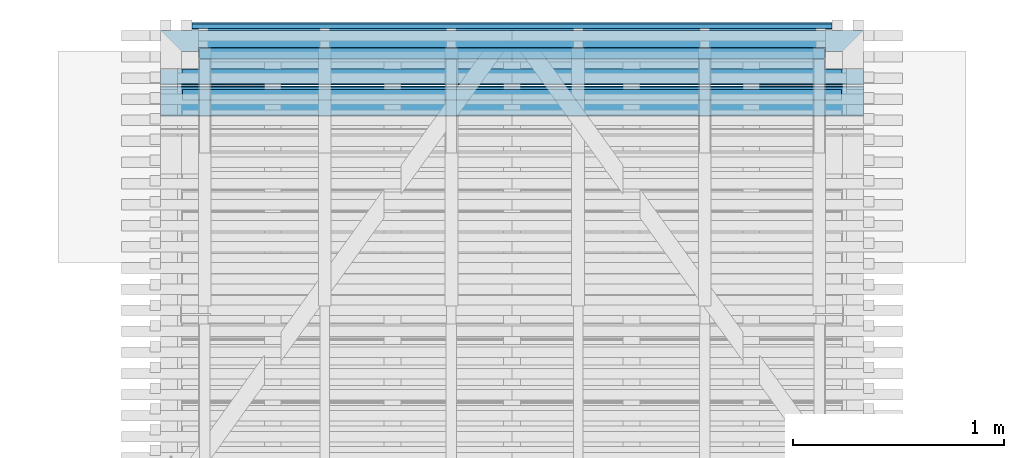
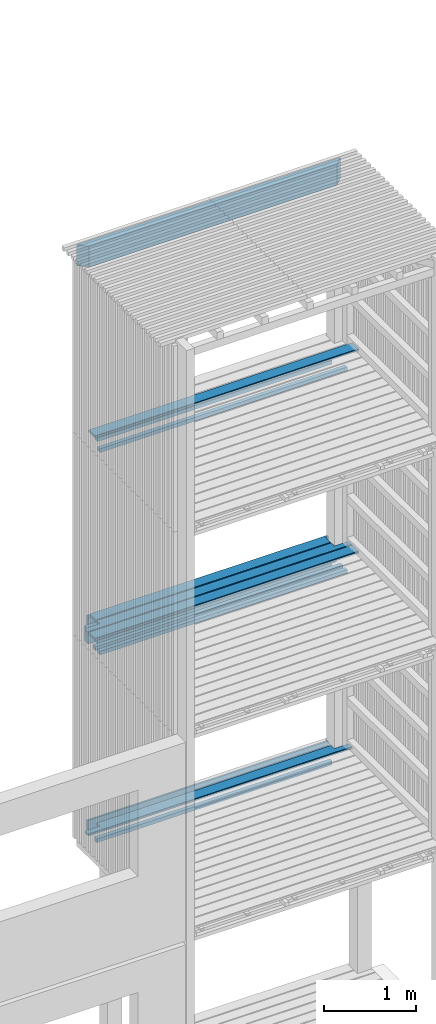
# One storey, part 27 of 182: 16 beams.
"""IFC2X3 building model written with IfcOpenShell, lengths in metres."""

import ifcopenshell
import ifcopenshell.guid

model = None  # the IFC model being written
_history = None  # IfcOwnerHistory: only IFC2X3 demands one
_inside = {}  # id of a spatial element -> (the spatial element, [elements in it])
_under = {}  # id of a project, library or spatial element -> (it, [spatial elements below it])
_declared = {}  # id of a project -> (the project, [libraries it declares])
_typed = {}  # id of a type object -> (the type object, [elements of that type])
_made_of = {}  # id of a material, layer set ... -> (it, [elements and type objects made of it])


def new_model(schema):
    """Start an empty IFC model of exactly this schema.

    Asked for "IFC4X3", IfcOpenShell would pick the latest addendum, in which some entities
    have other attributes; the version numbers below select the first issue.
    IFC2X3 requires an IfcOwnerHistory on every rooted entity: one is made here for all.
    """
    global model, _history
    if schema == "IFC4X3":
        model = ifcopenshell.file(schema_version=(4, 3, 0, 0))
    else:
        model = ifcopenshell.file(schema=schema)
    _inside.clear()
    _under.clear()
    _declared.clear()
    _typed.clear()
    _made_of.clear()
    _history = None
    if model.schema == "IFC2X3":
        org = make("IfcOrganization", Name="unknown")
        user = make(
            "IfcPersonAndOrganization",
            ThePerson=make("IfcPerson", FamilyName="unknown"),
            TheOrganization=org,
        )
        app = make(
            "IfcApplication",
            ApplicationDeveloper=org,
            Version="unknown",
            ApplicationFullName="unknown",
            ApplicationIdentifier="unknown",
        )
        _history = make(
            "IfcOwnerHistory",
            OwningUser=user,
            OwningApplication=app,
            ChangeAction="ADDED",
            CreationDate=0,
        )
    return model


def make(cls, **values):
    """One entity of the class cls with the attributes given. An attribute that is None is left unset."""
    return model.create_entity(
        cls, **{name: value for name, value in values.items() if value is not None}
    )


def rooted(cls, **values):
    """An entity with a GlobalId (a new one), such as an element, a storey or a relation."""
    return make(cls, GlobalId=ifcopenshell.guid.new(), OwnerHistory=_history, **values)


def si_unit(unit_type, name, prefix=None):
    """IfcSIUnit, for example si_unit("LENGTHUNIT", "METRE", prefix="MILLI")."""
    return make("IfcSIUnit", UnitType=unit_type, Prefix=prefix, Name=name)


def assignment(units):
    """IfcUnitAssignment: the units of a project."""
    return None if units is None else make("IfcUnitAssignment", Units=units)


def point(xyz):
    """IfcCartesianPoint."""
    return None if xyz is None else make("IfcCartesianPoint", Coordinates=xyz)


def direction(xyz):
    """IfcDirection."""
    return None if xyz is None else make("IfcDirection", DirectionRatios=xyz)


def frame(location, z_axis=None, x_axis=None):
    """IfcAxis2Placement3D, a coordinate frame: its origin and axes. An axis left out is left unset."""
    return make(
        "IfcAxis2Placement3D",
        Location=point(location),
        Axis=direction(z_axis),
        RefDirection=direction(x_axis),
    )


def origin():
    """The frame at (0, 0, 0) with its axes left unset."""
    return frame((0.0, 0.0, 0.0))


def place(relative_to, where):
    """IfcLocalPlacement: puts the frame where relative to a parent placement (None: the world)."""
    return make(
        "IfcLocalPlacement", PlacementRelTo=relative_to, RelativePlacement=where
    )


def context(
    kind, dimensions, precision=None, world=None, true_north=None, identifier=None
):
    """IfcGeometricRepresentationContext, for example the 3D "Model" context."""
    return make(
        "IfcGeometricRepresentationContext",
        ContextIdentifier=identifier,
        ContextType=kind,
        CoordinateSpaceDimension=dimensions,
        Precision=precision,
        WorldCoordinateSystem=world,
        TrueNorth=true_north,
    )


def project(units=None, contexts=None):
    """IfcProject with its units and contexts."""
    return rooted(
        "IfcProject",
        Name="project",
        RepresentationContexts=contexts,
        UnitsInContext=assignment(units),
    )


def spatial(cls, under=None, at=None, **own):
    """A site, building, storey or space (cls), placed at a placement, below another one or the project."""
    s = rooted(cls, ObjectPlacement=at, **own)
    if under is not None:
        _under.setdefault(under.id(), (under, []))[1].append(s)
    return s


def faces_of(points, faces, orient=None, outer=None):
    """IfcFace entities. A face is a list of loops; a loop is a list of indices into points, from 0.

    orient and outer hold one flag for each loop. By default every Orientation is true, the
    first loop of a face is its IfcFaceOuterBound and the others are IfcFaceBound.
    """
    made = []
    for i, loops in enumerate(faces):
        bounds = []
        for j, loop in enumerate(loops):
            is_outer = j == 0 if outer is None else outer[i][j]
            bounds.append(
                make(
                    "IfcFaceOuterBound" if is_outer else "IfcFaceBound",
                    Bound=make("IfcPolyLoop", Polygon=[points[k] for k in loop]),
                    Orientation=True if orient is None else orient[i][j],
                )
            )
        made.append(make("IfcFace", Bounds=bounds))
    return made


def faceted_brep(points, faces, orient=None, outer=None, voids=None):
    """IfcFacetedBrep: a solid bounded by flat faces; with voids (closed shells), ...WithVoids."""
    shared = [point(p) for p in points]
    hull = make("IfcClosedShell", CfsFaces=faces_of(shared, faces, orient, outer))
    if voids is None:
        return make("IfcFacetedBrep", Outer=hull)
    return make(
        "IfcFacetedBrepWithVoids",
        Outer=hull,
        Voids=[
            make(cls, CfsFaces=faces_of(shared, fs, o, b)) for cls, fs, o, b in voids
        ],
    )


def shape(context_of_items, identifier, shape_type, items):
    """IfcShapeRepresentation: the items that make up one representation, for example the "Body"."""
    return make(
        "IfcShapeRepresentation",
        ContextOfItems=context_of_items,
        RepresentationIdentifier=identifier,
        RepresentationType=shape_type,
        Items=items,
    )


def made_of(thing, what):
    """Note that an element or type object is made of a material, layer set ...; save() writes the relation."""
    if what is not None:
        _made_of.setdefault(what.id(), (what, []))[1].append(thing)
    return thing


def element(
    cls,
    number,
    at=None,
    inside=None,
    cuts=None,
    type_object=None,
    material=None,
    context=None,
    identifier="Body",
    shape_type=None,
    held_by="IfcProductDefinitionShape",
    body=None,
    shapes=None,
    **own,
):
    """One element of the class cls, such as IfcWall. Its Tag is "e" and its number.

    at: its placement. inside: the storey or other place that contains it. cuts: it is an
    opening in that element (IfcRelVoidsElement). A single representation is given by context,
    identifier, shape_type and body (its items); several are given by shapes. held_by: the class
    of the entity that holds the representations. save() writes the other relations.
    """
    e = rooted(cls, Tag="e%d" % number, ObjectPlacement=at, **own)
    if body is not None:
        shapes = [shape(context, identifier, shape_type, body)]
    if shapes is not None:
        e.Representation = make(held_by, Representations=shapes)
    if inside is not None:
        _inside.setdefault(inside.id(), (inside, []))[1].append(e)
    if cuts is not None:
        rooted(
            "IfcRelVoidsElement", RelatingBuildingElement=cuts, RelatedOpeningElement=e
        )
    if type_object is not None:
        _typed.setdefault(type_object.id(), (type_object, []))[1].append(e)
    return made_of(e, material)


def aggregate(whole, parts):
    """IfcRelAggregates: a whole, such as a stair, and the parts it consists of."""
    return rooted("IfcRelAggregates", RelatingObject=whole, RelatedObjects=parts)


def save(model, path):
    """Write the relations noted so far, then the file.

    IfcRelAggregates (storeys below a building ...), IfcRelContainedInSpatialStructure (elements
    in a storey), IfcRelDefinesByType, IfcRelAssociatesMaterial and IfcRelDeclares: one each for
    every whole, place, type object, material and project.
    """
    for whole, parts in _under.values():
        aggregate(whole, parts)
    for where, things in _inside.values():
        rooted(
            "IfcRelContainedInSpatialStructure",
            RelatedElements=things,
            RelatingStructure=where,
        )
    for kind, things in _typed.values():
        rooted("IfcRelDefinesByType", RelatedObjects=things, RelatingType=kind)
    for what, things in _made_of.values():
        rooted("IfcRelAssociatesMaterial", RelatedObjects=things, RelatingMaterial=what)
    for by, libraries in _declared.values():
        rooted("IfcRelDeclares", RelatingContext=by, RelatedDefinitions=libraries)
    model.write(path)


model = new_model("IFC2X3")

# Units and contexts
model_context = context("Model", 3, precision=1e-06, world=origin())
ifc_project = project(units=[si_unit("LENGTHUNIT", "METRE"), si_unit("PLANEANGLEUNIT", "RADIAN")], contexts=[model_context])

# Site, building, storey
site = spatial("IfcSite", under=ifc_project, CompositionType="ELEMENT")
building = spatial("IfcBuilding", under=site, CompositionType="ELEMENT")
storey = spatial("IfcBuildingStorey", under=building, Name="vs", CompositionType="ELEMENT", Elevation=-0.85)

# Beams
placement = place(None, origin())
beam_1_placement = place(placement, frame((6.644197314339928, 12.684577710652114, 2.733499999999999), z_axis=(0.0, 0.0, 1.0), x_axis=(-1.0, 0.0, 0.0)))
element("IfcBeam", 1, at=beam_1_placement, inside=storey, Name="Caillebotis", context=model_context, shape_type="Brep", body=[
    faceted_brep([(3.144999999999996, -0.000499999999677, 0.0135), (3.144999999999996, -0.000499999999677, -0.0135), (3.329999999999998, -0.000499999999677, -0.0135), (3.329999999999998, -0.000499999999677, 0.0135), (3.329999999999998, 0.072500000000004, -0.0135), (3.329999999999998, 0.0725, 0.0085), (3.329999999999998, 0.067500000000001, 0.0135), (3.329999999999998, -0.000499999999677, 0.0135), (3.329999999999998, -0.000499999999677, -0.0135), (3.144999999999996, -0.072499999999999, 0.008500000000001), (3.144999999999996, -0.072499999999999, -0.013500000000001), (3.144999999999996, -0.000499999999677, -0.0135), (3.144999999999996, -0.000499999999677, 0.0135), (3.144999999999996, -0.0675, 0.0135), (3.144999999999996, -0.072499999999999, -0.013500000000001), (3.144999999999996, -0.072499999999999, 0.008500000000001), (0.185000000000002, -0.072499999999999, 0.008500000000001), (0.185000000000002, -0.072499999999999, -0.0135), (3.144999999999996, -0.072499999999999, 0.008500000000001), (3.144999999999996, -0.0675, 0.0135), (0.185000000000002, -0.067500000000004, 0.0135), (0.185000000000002, -0.072499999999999, 0.008500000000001), (0.185000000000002, -0.072499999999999, -0.0135), (0.185000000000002, -0.072499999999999, 0.008500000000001), (0.185000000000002, -0.067500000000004, 0.0135), (0.185000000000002, -0.000499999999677, 0.0135), (0.185000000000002, -0.000499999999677, -0.0135), (1.4e-14, -0.000499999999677, 0.0135), (0.0, 0.067500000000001, 0.0135), (0.0, 0.0725, 0.008500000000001), (0.0, 0.0725, -0.0135), (0.0, -0.000499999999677, -0.0135), (3.329999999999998, 0.0725, 0.0085), (3.329999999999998, 0.072500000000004, -0.0135), (0.0, 0.0725, -0.0135), (0.0, 0.0725, 0.008500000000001), (3.329999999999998, 0.067500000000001, 0.0135), (3.329999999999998, 0.0725, 0.0085), (0.0, 0.0725, 0.008500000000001), (0.0, 0.067500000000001, 0.0135), (3.144999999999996, -0.0675, 0.0135), (3.144999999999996, -0.000499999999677, 0.0135), (3.329999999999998, -0.000499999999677, 0.0135), (3.329999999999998, 0.067500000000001, 0.0135), (0.0, 0.067500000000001, 0.0135), (1.4e-14, -0.000499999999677, 0.0135), (0.185000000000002, -0.000499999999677, 0.0135), (0.185000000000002, -0.067500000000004, 0.0135), (0.185000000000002, -0.000499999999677, -0.0135), (0.185000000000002, -0.000499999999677, 0.0135), (1.4e-14, -0.000499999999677, 0.0135), (0.0, -0.000499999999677, -0.0135), (0.0, -0.000499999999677, -0.0135), (0.0, 0.0725, -0.0135), (3.329999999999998, 0.072500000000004, -0.0135), (3.329999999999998, -0.000499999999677, -0.0135), (3.144999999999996, -0.000499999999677, -0.0135), (3.144999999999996, -0.072499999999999, -0.013500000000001), (0.185000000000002, -0.072499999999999, -0.0135), (0.185000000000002, -0.000499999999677, -0.0135)], [[[0, 1, 2, 3]], [[4, 5, 6, 7, 8]], [[9, 10, 11, 12, 13]], [[14, 15, 16, 17]], [[18, 19, 20, 21]], [[22, 23, 24, 25, 26]], [[27, 28, 29, 30, 31]], [[32, 33, 34, 35]], [[36, 37, 38, 39]], [[40, 41, 42, 43, 44, 45, 46, 47]], [[48, 49, 50, 51]], [[52, 53, 54, 55, 56, 57, 58, 59]]]),
])
beam_2_placement = place(placement, frame((6.539197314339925, 12.565911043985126, 5.167399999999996), z_axis=(0.0, 0.0, 1.0), x_axis=(-1.0, 0.0, 0.0)))
element("IfcBeam", 2, at=beam_2_placement, inside=storey, Name="Bardage", context=model_context, shape_type="Brep", body=[
    faceted_brep([(3.120000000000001, 0.025000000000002, -0.025), (3.120000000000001, 0.025000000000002, 0.024999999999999), (3.120000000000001, -0.024999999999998, 0.024999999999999), (3.120000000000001, -0.024999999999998, -0.025), (-3e-15, -0.024999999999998, -0.025), (-3e-15, -0.024999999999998, 0.024999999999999), (-3e-15, 0.024999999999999, 0.024999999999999), (-3e-15, 0.024999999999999, -0.025), (-3e-15, 0.024999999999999, -0.025), (-3e-15, 0.024999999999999, 0.024999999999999), (3.120000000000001, 0.025000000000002, 0.024999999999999), (3.120000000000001, 0.025000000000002, -0.025), (-3e-15, 0.024999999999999, 0.024999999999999), (-3e-15, -0.024999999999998, 0.024999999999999), (3.120000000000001, -0.024999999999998, 0.024999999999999), (3.120000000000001, 0.025000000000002, 0.024999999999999), (-3e-15, -0.024999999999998, 0.024999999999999), (-3e-15, -0.024999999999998, -0.025), (3.120000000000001, -0.024999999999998, -0.025), (3.120000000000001, -0.024999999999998, 0.024999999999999), (-3e-15, -0.024999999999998, -0.025), (-3e-15, 0.024999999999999, -0.025), (3.120000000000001, 0.025000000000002, -0.025), (3.120000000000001, -0.024999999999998, -0.025)], [[[0, 1, 2, 3]], [[4, 5, 6, 7]], [[8, 9, 10, 11]], [[12, 13, 14, 15]], [[16, 17, 18, 19]], [[20, 21, 22, 23]]]),
])
beam_3_placement = place(placement, frame((6.539197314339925, 12.66299437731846, 5.167399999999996), z_axis=(0.0, 0.0, 1.0), x_axis=(-1.0, -1e-15, 0.0)))
element("IfcBeam", 3, at=beam_3_placement, inside=storey, Name="Bardage", context=model_context, shape_type="Brep", body=[
    faceted_brep([(3.120000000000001, 0.024999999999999, -0.025), (3.120000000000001, 0.024999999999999, 0.025), (3.120000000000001, -0.025000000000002, 0.025), (3.120000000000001, -0.025000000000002, -0.025), (-3e-15, -0.024999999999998, -0.025), (-3e-15, -0.024999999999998, 0.025), (-3e-15, 0.025000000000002, 0.025), (-3e-15, 0.025000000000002, -0.025), (-3e-15, 0.025000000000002, -0.025), (-3e-15, 0.025000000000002, 0.025), (3.120000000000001, 0.024999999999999, 0.025), (3.120000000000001, 0.024999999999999, -0.025), (-3e-15, 0.025000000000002, 0.025), (-3e-15, -0.024999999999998, 0.025), (3.120000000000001, -0.025000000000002, 0.025), (3.120000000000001, 0.024999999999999, 0.025), (-3e-15, -0.024999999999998, 0.025), (-3e-15, -0.024999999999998, -0.025), (3.120000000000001, -0.025000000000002, -0.025), (3.120000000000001, -0.025000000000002, 0.025), (-3e-15, -0.024999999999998, -0.025), (-3e-15, 0.025000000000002, -0.025), (3.120000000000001, 0.024999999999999, -0.025), (3.120000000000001, -0.025000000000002, -0.025)], [[[0, 1, 2, 3]], [[4, 5, 6, 7]], [[8, 9, 10, 11]], [[12, 13, 14, 15]], [[16, 17, 18, 19]], [[20, 21, 22, 23]]]),
])
beam_4_placement = place(placement, frame((3.314197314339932, 12.820077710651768, 10.314999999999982), z_axis=(0.0, 0.0, 1.0), x_axis=(1.0, 7e-15, 0.0)))
element("IfcBeam", 4, at=beam_4_placement, inside=storey, Name="Sommier", context=model_context, shape_type="Brep", body=[
    faceted_brep([(3.33, 0.049999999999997, -0.140000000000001), (3.230000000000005, -0.049999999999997, -0.140000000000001), (0.099999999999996, -0.049999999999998, -0.140000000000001), (2e-15, 0.049999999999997, -0.140000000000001), (0.099999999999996, -0.049999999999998, -0.140000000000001), (3.230000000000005, -0.049999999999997, -0.140000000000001), (3.230000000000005, -0.049999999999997, 0.140000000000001), (0.099999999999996, -0.049999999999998, 0.140000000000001), (3.230000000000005, -0.049999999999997, -0.140000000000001), (3.33, 0.049999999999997, -0.140000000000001), (3.33, 0.049999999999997, 0.140000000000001), (3.230000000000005, -0.049999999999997, 0.140000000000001), (3.33, 0.049999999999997, 0.140000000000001), (3.33, 0.049999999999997, -0.140000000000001), (2e-15, 0.049999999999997, -0.140000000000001), (2e-15, 0.049999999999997, 0.140000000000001), (0.099999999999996, -0.049999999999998, 0.140000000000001), (3.230000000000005, -0.049999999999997, 0.140000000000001), (3.33, 0.049999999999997, 0.140000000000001), (2e-15, 0.049999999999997, 0.140000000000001), (0.099999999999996, -0.049999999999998, -0.140000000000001), (0.099999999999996, -0.049999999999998, 0.140000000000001), (2e-15, 0.049999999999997, 0.140000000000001), (2e-15, 0.049999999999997, -0.140000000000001)], [[[0, 1, 2, 3]], [[4, 5, 6, 7]], [[8, 9, 10, 11]], [[12, 13, 14, 15]], [[16, 17, 18, 19]], [[20, 21, 22, 23]]]),
])
beam_5_placement = place(placement, frame((6.539197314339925, 12.565911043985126, 7.86739999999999), z_axis=(0.0, 0.0, 1.0), x_axis=(-1.0, 0.0, 0.0)))
element("IfcBeam", 5, at=beam_5_placement, inside=storey, Name="Bardage", context=model_context, shape_type="Brep", body=[
    faceted_brep([(3.120000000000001, 0.025000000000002, -0.024999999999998), (3.120000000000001, 0.025000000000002, 0.025000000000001), (3.120000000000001, -0.024999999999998, 0.025000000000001), (3.120000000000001, -0.024999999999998, -0.024999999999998), (-3e-15, -0.024999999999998, -0.024999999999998), (-3e-15, -0.024999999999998, 0.025000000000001), (-3e-15, 0.025000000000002, 0.025000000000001), (-3e-15, 0.025000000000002, -0.024999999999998), (-3e-15, 0.025000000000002, -0.024999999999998), (-3e-15, 0.025000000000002, 0.025000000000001), (3.120000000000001, 0.025000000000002, 0.025000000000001), (3.120000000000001, 0.025000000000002, -0.024999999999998), (-3e-15, 0.025000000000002, 0.025000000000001), (-3e-15, -0.024999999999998, 0.025000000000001), (3.120000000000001, -0.024999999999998, 0.025000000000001), (3.120000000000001, 0.025000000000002, 0.025000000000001), (-3e-15, -0.024999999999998, 0.025000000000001), (-3e-15, -0.024999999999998, -0.024999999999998), (3.120000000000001, -0.024999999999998, -0.024999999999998), (3.120000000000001, -0.024999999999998, 0.025000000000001), (-3e-15, -0.024999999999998, -0.024999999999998), (-3e-15, 0.025000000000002, -0.024999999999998), (3.120000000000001, 0.025000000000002, -0.024999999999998), (3.120000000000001, -0.024999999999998, -0.024999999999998)], [[[0, 1, 2, 3]], [[4, 5, 6, 7]], [[8, 9, 10, 11]], [[12, 13, 14, 15]], [[16, 17, 18, 19]], [[20, 21, 22, 23]]]),
])
beam_6_placement = place(placement, frame((6.496015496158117, 12.834577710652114, 5.433499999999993), z_axis=(0.0, 0.0, 1.0), x_axis=(-1.0, 0.0, 0.0)))
element("IfcBeam", 6, at=beam_6_placement, inside=storey, Name="Caillebotis", context=model_context, shape_type="Brep", body=[
    faceted_brep([(3.033636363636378, -0.072499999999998, -0.0135), (3.033636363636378, -0.072499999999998, 0.008500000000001), (2e-15, -0.072499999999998, 0.008500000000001), (2e-15, -0.072500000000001, -0.0135), (2.996818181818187, 0.072500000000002, 0.0085), (2.996818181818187, 0.067500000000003, 0.0135), (2.996818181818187, -0.040499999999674, 0.0135), (2.996818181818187, -0.040499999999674, -0.0135), (2.996818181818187, 0.072500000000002, -0.013500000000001), (0.036818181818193, -0.040499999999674, -0.0135), (0.036818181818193, 0.072499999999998, -0.0135), (2.996818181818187, 0.072500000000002, -0.013500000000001), (2.996818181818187, -0.040499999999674, -0.0135), (3.033636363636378, -0.040499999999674, -0.013500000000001), (3.033636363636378, -0.072499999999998, -0.0135), (2e-15, -0.072500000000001, -0.0135), (2e-15, -0.040499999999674, -0.0135), (3.033636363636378, -0.072499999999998, 0.008500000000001), (3.033636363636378, -0.072499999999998, -0.0135), (3.033636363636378, -0.040499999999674, -0.013500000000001), (3.033636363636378, -0.040499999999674, 0.0135), (3.033636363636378, -0.067500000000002, 0.0135), (3.033636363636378, -0.040499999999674, 0.0135), (3.033636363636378, -0.040499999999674, -0.013500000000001), (2.996818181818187, -0.040499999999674, -0.0135), (2.996818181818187, -0.040499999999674, 0.0135), (2.996818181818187, 0.072500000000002, 0.0085), (2.996818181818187, 0.072500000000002, -0.013500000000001), (0.036818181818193, 0.072499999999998, -0.0135), (0.036818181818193, 0.072499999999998, 0.008500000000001), (2.996818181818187, 0.067500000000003, 0.0135), (2.996818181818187, 0.072500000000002, 0.0085), (0.036818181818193, 0.072499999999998, 0.008500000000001), (0.036818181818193, 0.067500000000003, 0.0135), (0.036818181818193, 0.067500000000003, 0.0135), (0.036818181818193, 0.072499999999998, 0.008500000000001), (0.036818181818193, 0.072499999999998, -0.0135), (0.036818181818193, -0.040499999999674, -0.0135), (0.036818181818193, -0.040499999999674, 0.0135), (0.036818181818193, -0.040499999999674, 0.0135), (0.036818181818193, -0.040499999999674, -0.0135), (2e-15, -0.040499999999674, -0.0135), (2e-15, -0.040499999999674, 0.0135), (3.033636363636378, -0.067500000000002, 0.0135), (3.033636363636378, -0.040499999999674, 0.0135), (2.996818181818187, -0.040499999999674, 0.0135), (2.996818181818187, 0.067500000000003, 0.0135), (0.036818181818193, 0.067500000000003, 0.0135), (0.036818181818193, -0.040499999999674, 0.0135), (2e-15, -0.040499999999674, 0.0135), (2e-15, -0.067500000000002, 0.0135), (2e-15, -0.072499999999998, 0.008500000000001), (3.033636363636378, -0.072499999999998, 0.008500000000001), (3.033636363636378, -0.067500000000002, 0.0135), (2e-15, -0.067500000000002, 0.0135), (2e-15, -0.072500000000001, -0.0135), (2e-15, -0.072499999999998, 0.008500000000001), (2e-15, -0.067500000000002, 0.0135), (2e-15, -0.040499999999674, 0.0135), (2e-15, -0.040499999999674, -0.0135)], [[[0, 1, 2, 3]], [[4, 5, 6, 7, 8]], [[9, 10, 11, 12, 13, 14, 15, 16]], [[17, 18, 19, 20, 21]], [[22, 23, 24, 25]], [[26, 27, 28, 29]], [[30, 31, 32, 33]], [[34, 35, 36, 37, 38]], [[39, 40, 41, 42]], [[43, 44, 45, 46, 47, 48, 49, 50]], [[51, 52, 53, 54]], [[55, 56, 57, 58, 59]]]),
])
beam_7_placement = place(placement, frame((3.494197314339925, 12.76507771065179, 2.5174), z_axis=(0.0, 0.0, 1.0), x_axis=(1.0, 1e-15, 0.0)))
element("IfcBeam", 7, at=beam_7_placement, inside=storey, Name="Ligneul", context=model_context, shape_type="Brep", body=[
    faceted_brep([(2e-15, -0.024999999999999, 0.025), (2e-15, -0.024999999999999, -0.025), (2.970000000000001, -0.025000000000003, -0.025), (2.970000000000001, -0.025000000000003, 0.025), (2e-15, 0.025000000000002, 0.025), (2e-15, -0.024999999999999, 0.025), (2.970000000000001, -0.025000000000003, 0.025), (2.970000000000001, 0.025000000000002, 0.025), (2e-15, -0.024999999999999, 0.025), (2e-15, 0.025000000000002, 0.025), (2e-15, 0.025000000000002, -0.025), (2e-15, -0.024999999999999, -0.025), (2e-15, 0.025000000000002, -0.025), (2e-15, 0.025000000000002, 0.025), (2.970000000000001, 0.025000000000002, 0.025), (2.970000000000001, 0.025000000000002, -0.025), (2.970000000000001, -0.025000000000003, -0.025), (2e-15, -0.024999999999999, -0.025), (2e-15, 0.025000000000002, -0.025), (2.970000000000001, 0.025000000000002, -0.025), (2.970000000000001, -0.025000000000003, 0.025), (2.970000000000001, -0.025000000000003, -0.025), (2.970000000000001, 0.025000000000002, -0.025), (2.970000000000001, 0.025000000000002, 0.025)], [[[0, 1, 2, 3]], [[4, 5, 6, 7]], [[8, 9, 10, 11]], [[12, 13, 14, 15]], [[16, 17, 18, 19]], [[20, 21, 22, 23]]]),
])
beam_8_placement = place(placement, frame((6.54419731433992, 12.830077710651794, 5.239999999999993), z_axis=(0.0, 0.0, 1.0), x_axis=(-1.0, 0.0, 0.0)))
element("IfcBeam", 8, at=beam_8_placement, inside=storey, Name="Sommier", context=model_context, shape_type="Brep", body=[
    faceted_brep([(3.129999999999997, -0.039999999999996, 0.100000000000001), (3.129999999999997, 0.040000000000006, 0.100000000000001), (1e-15, 0.040000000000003, 0.100000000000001), (1e-15, -0.039999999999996, 0.100000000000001), (3.129999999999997, -0.039999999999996, -0.1), (3.129999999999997, -0.039999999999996, 0.100000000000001), (1e-15, -0.039999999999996, 0.100000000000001), (1e-15, -0.039999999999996, -0.1), (3.129999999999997, -0.039999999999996, 0.100000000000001), (3.129999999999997, -0.039999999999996, -0.1), (3.129999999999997, 0.040000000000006, -0.099999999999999), (3.129999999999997, 0.040000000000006, 0.100000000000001), (3.129999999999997, 0.040000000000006, -0.099999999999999), (3.129999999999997, -0.039999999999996, -0.1), (1e-15, -0.039999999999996, -0.1), (1e-15, 0.040000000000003, -0.1), (1e-15, 0.040000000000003, 0.100000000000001), (3.129999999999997, 0.040000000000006, 0.100000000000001), (3.129999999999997, 0.040000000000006, -0.099999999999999), (1e-15, 0.040000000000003, -0.1), (1e-15, -0.039999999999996, 0.100000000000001), (1e-15, 0.040000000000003, 0.100000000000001), (1e-15, 0.040000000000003, -0.1), (1e-15, -0.039999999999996, -0.1)], [[[0, 1, 2, 3]], [[4, 5, 6, 7]], [[8, 9, 10, 11]], [[12, 13, 14, 15]], [[16, 17, 18, 19]], [[20, 21, 22, 23]]]),
])
beam_9_placement = place(placement, frame((6.644197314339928, 12.684577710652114, 5.433499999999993), z_axis=(0.0, 0.0, 1.0), x_axis=(-1.0, 0.0, 0.0)))
element("IfcBeam", 9, at=beam_9_placement, inside=storey, Name="Caillebotis", context=model_context, shape_type="Brep", body=[
    faceted_brep([(3.144999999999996, -0.000499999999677, 0.0135), (3.144999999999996, -0.000499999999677, -0.0135), (3.329999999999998, -0.000499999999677, -0.0135), (3.329999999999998, -0.000499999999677, 0.0135), (3.329999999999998, 0.072500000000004, -0.0135), (3.329999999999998, 0.0725, 0.008500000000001), (3.329999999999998, 0.067500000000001, 0.0135), (3.329999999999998, -0.000499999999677, 0.0135), (3.329999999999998, -0.000499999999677, -0.0135), (3.144999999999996, -0.072499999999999, 0.008500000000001), (3.144999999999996, -0.072499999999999, -0.013500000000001), (3.144999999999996, -0.000499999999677, -0.0135), (3.144999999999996, -0.000499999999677, 0.0135), (3.144999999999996, -0.0675, 0.0135), (3.144999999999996, -0.072499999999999, -0.013500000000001), (3.144999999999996, -0.072499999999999, 0.008500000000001), (0.185000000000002, -0.072499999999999, 0.008500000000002), (0.185000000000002, -0.072499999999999, -0.0135), (3.144999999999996, -0.072499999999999, 0.008500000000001), (3.144999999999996, -0.0675, 0.0135), (0.185000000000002, -0.067500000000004, 0.0135), (0.185000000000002, -0.072499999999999, 0.008500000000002), (0.185000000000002, -0.072499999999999, -0.0135), (0.185000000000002, -0.072499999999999, 0.008500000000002), (0.185000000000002, -0.067500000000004, 0.0135), (0.185000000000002, -0.000499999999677, 0.0135), (0.185000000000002, -0.000499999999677, -0.0135), (1.4e-14, -0.000499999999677, 0.0135), (0.0, 0.067500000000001, 0.0135), (0.0, 0.0725, 0.008500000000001), (0.0, 0.0725, -0.0135), (0.0, -0.000499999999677, -0.0135), (3.329999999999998, 0.0725, 0.008500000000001), (3.329999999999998, 0.072500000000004, -0.0135), (0.0, 0.0725, -0.0135), (0.0, 0.0725, 0.008500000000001), (3.329999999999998, 0.067500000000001, 0.0135), (3.329999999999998, 0.0725, 0.008500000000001), (0.0, 0.0725, 0.008500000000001), (0.0, 0.067500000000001, 0.0135), (3.144999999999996, -0.0675, 0.0135), (3.144999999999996, -0.000499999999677, 0.0135), (3.329999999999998, -0.000499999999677, 0.0135), (3.329999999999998, 0.067500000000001, 0.0135), (0.0, 0.067500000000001, 0.0135), (1.4e-14, -0.000499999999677, 0.0135), (0.185000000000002, -0.000499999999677, 0.0135), (0.185000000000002, -0.067500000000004, 0.0135), (0.185000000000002, -0.000499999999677, -0.0135), (0.185000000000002, -0.000499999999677, 0.0135), (1.4e-14, -0.000499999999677, 0.0135), (0.0, -0.000499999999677, -0.0135), (0.0, -0.000499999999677, -0.0135), (0.0, 0.0725, -0.0135), (3.329999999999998, 0.072500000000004, -0.0135), (3.329999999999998, -0.000499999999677, -0.0135), (3.144999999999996, -0.000499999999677, -0.0135), (3.144999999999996, -0.072499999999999, -0.013500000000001), (0.185000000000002, -0.072499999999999, -0.0135), (0.185000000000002, -0.000499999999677, -0.0135)], [[[0, 1, 2, 3]], [[4, 5, 6, 7, 8]], [[9, 10, 11, 12, 13]], [[14, 15, 16, 17]], [[18, 19, 20, 21]], [[22, 23, 24, 25, 26]], [[27, 28, 29, 30, 31]], [[32, 33, 34, 35]], [[36, 37, 38, 39]], [[40, 41, 42, 43, 44, 45, 46, 47]], [[48, 49, 50, 51]], [[52, 53, 54, 55, 56, 57, 58, 59]]]),
])
beam_10_placement = place(placement, frame((6.459197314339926, 12.760077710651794, 5.167399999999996), z_axis=(0.0, 0.0, 1.0), x_axis=(-1.0, 0.0, 0.0)))
element("IfcBeam", 10, at=beam_10_placement, inside=storey, Name="Bardage", context=model_context, shape_type="Brep", body=[
    faceted_brep([(2.96000000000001, -0.024999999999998, 0.025), (2.96000000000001, -0.024999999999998, -0.025), (2.96000000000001, 0.025000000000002, -0.025), (2.96000000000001, 0.025000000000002, 0.025), (2e-15, 0.024999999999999, 0.025), (2e-15, 0.024999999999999, -0.025), (2e-15, -0.024999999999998, -0.025), (2e-15, -0.024999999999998, 0.025), (2e-15, -0.024999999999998, -0.025), (2e-15, 0.024999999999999, -0.025), (2.96000000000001, 0.025000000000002, -0.025), (2.96000000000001, -0.024999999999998, -0.025), (2e-15, 0.024999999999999, -0.025), (2e-15, 0.024999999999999, 0.025), (2.96000000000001, 0.025000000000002, 0.025), (2.96000000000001, 0.025000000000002, -0.025), (2e-15, 0.024999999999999, 0.025), (2e-15, -0.024999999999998, 0.025), (2.96000000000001, -0.024999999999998, 0.025), (2.96000000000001, 0.025000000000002, 0.025), (2e-15, -0.024999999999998, 0.025), (2e-15, -0.024999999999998, -0.025), (2.96000000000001, -0.024999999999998, -0.025), (2.96000000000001, -0.024999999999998, 0.025)], [[[0, 1, 2, 3]], [[4, 5, 6, 7]], [[8, 9, 10, 11]], [[12, 13, 14, 15]], [[16, 17, 18, 19]], [[20, 21, 22, 23]]]),
])
beam_11_placement = place(placement, frame((3.462379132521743, 12.893577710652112, 5.342499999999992), z_axis=(0.0, 1.0, 0.0), x_axis=(1.0, 0.0, 0.0)))
element("IfcBeam", 11, at=beam_11_placement, inside=storey, Name="Caillebotis", context=model_context, shape_type="Brep", body=[
    faceted_brep([(-3e-15, -0.072500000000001, -0.013500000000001), (-3e-15, 0.072499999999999, -0.013500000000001), (3.033636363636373, 0.072499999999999, -0.013499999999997), (3.033636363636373, -0.072500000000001, -0.013499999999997), (-3e-15, -0.072500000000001, 0.008500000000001), (-3e-15, -0.072500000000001, -0.013500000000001), (3.033636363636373, -0.072500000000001, -0.013499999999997), (3.033636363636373, -0.072500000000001, 0.008500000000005), (-3e-15, -0.067500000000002, 0.0135), (-3e-15, -0.072500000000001, 0.008500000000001), (3.033636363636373, -0.072500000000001, 0.008500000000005), (3.033636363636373, -0.067500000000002, 0.013500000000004), (-3e-15, -0.072500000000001, -0.013500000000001), (-3e-15, -0.072500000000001, 0.008500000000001), (-3e-15, -0.067500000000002, 0.0135), (-3e-15, 0.0675, 0.0135), (-3e-15, 0.072499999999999, 0.008500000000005), (-3e-15, 0.072499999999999, -0.013500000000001), (-3e-15, 0.0675, 0.0135), (-3e-15, -0.067500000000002, 0.0135), (3.033636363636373, -0.067500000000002, 0.013500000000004), (3.033636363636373, 0.0675, 0.013500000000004), (-3e-15, 0.072499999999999, 0.008500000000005), (-3e-15, 0.0675, 0.0135), (3.033636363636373, 0.0675, 0.013500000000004), (3.033636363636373, 0.072499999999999, 0.008500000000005), (3.033636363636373, 0.072499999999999, -0.013499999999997), (-3e-15, 0.072499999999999, -0.013500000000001), (-3e-15, 0.072499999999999, 0.008500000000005), (3.033636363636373, 0.072499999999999, 0.008500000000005), (3.033636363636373, -0.072500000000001, 0.008500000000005), (3.033636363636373, -0.072500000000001, -0.013499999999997), (3.033636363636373, 0.072499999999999, -0.013499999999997), (3.033636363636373, 0.072499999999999, 0.008500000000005), (3.033636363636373, 0.0675, 0.013500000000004), (3.033636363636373, -0.067500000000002, 0.013500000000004)], [[[0, 1, 2, 3]], [[4, 5, 6, 7]], [[8, 9, 10, 11]], [[12, 13, 14, 15, 16, 17]], [[18, 19, 20, 21]], [[22, 23, 24, 25]], [[26, 27, 28, 29]], [[30, 31, 32, 33, 34, 35]]]),
])
beam_12_placement = place(placement, frame((6.459197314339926, 12.760077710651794, 7.86739999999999), z_axis=(0.0, 0.0, 1.0), x_axis=(-1.0, 0.0, 0.0)))
element("IfcBeam", 12, at=beam_12_placement, inside=storey, Name="Bardage", context=model_context, shape_type="Brep", body=[
    faceted_brep([(2.96000000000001, -0.024999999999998, 0.025000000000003), (2.96000000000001, -0.024999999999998, -0.024999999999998), (2.96000000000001, 0.025000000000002, -0.024999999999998), (2.96000000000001, 0.025000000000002, 0.025000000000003), (2e-15, 0.024999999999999, 0.025000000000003), (2e-15, 0.024999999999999, -0.024999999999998), (2e-15, -0.024999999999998, -0.024999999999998), (2e-15, -0.024999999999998, 0.025000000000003), (2e-15, -0.024999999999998, -0.024999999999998), (2e-15, 0.024999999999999, -0.024999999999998), (2.96000000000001, 0.025000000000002, -0.024999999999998), (2.96000000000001, -0.024999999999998, -0.024999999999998), (2e-15, 0.024999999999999, -0.024999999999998), (2e-15, 0.024999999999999, 0.025000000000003), (2.96000000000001, 0.025000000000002, 0.025000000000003), (2.96000000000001, 0.025000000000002, -0.024999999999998), (2e-15, 0.024999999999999, 0.025000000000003), (2e-15, -0.024999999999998, 0.025000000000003), (2.96000000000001, -0.024999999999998, 0.025000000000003), (2.96000000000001, 0.025000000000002, 0.025000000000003), (2e-15, -0.024999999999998, 0.025000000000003), (2e-15, -0.024999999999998, -0.024999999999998), (2.96000000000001, -0.024999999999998, -0.024999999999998), (2.96000000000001, -0.024999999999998, 0.025000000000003)], [[[0, 1, 2, 3]], [[4, 5, 6, 7]], [[8, 9, 10, 11]], [[12, 13, 14, 15]], [[16, 17, 18, 19]], [[20, 21, 22, 23]]]),
])
beam_13_placement = place(placement, frame((6.644197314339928, 12.534577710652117, 5.433499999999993), z_axis=(0.0, 0.0, 1.0), x_axis=(-1.0, -1e-15, 0.0)))
element("IfcBeam", 13, at=beam_13_placement, inside=storey, Name="Caillebotis", context=model_context, shape_type="Brep", body=[
    faceted_brep([(3.329999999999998, -0.072500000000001, -0.0135), (3.329999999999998, 0.072500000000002, -0.0135), (3.329999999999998, 0.072500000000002, 0.008500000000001), (3.329999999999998, 0.067499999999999, 0.0135), (3.329999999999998, -0.067499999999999, 0.0135), (3.329999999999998, -0.072500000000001, 0.008500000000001), (0.0, -0.072499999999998, 0.008500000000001), (0.0, -0.067499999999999, 0.0135), (0.0, 0.067500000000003, 0.0135), (0.0, 0.072500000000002, 0.008500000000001), (0.0, 0.072500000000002, -0.0135), (0.0, -0.072499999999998, -0.0135), (3.329999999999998, 0.072500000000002, 0.008500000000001), (3.329999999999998, 0.072500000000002, -0.0135), (0.0, 0.072500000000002, -0.0135), (0.0, 0.072500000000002, 0.008500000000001), (3.329999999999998, 0.067499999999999, 0.0135), (3.329999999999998, 0.072500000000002, 0.008500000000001), (0.0, 0.072500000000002, 0.008500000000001), (0.0, 0.067500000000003, 0.0135), (3.329999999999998, -0.067499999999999, 0.0135), (3.329999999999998, 0.067499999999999, 0.0135), (0.0, 0.067500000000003, 0.0135), (0.0, -0.067499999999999, 0.0135), (3.329999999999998, -0.072500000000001, 0.008500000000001), (3.329999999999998, -0.067499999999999, 0.0135), (0.0, -0.067499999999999, 0.0135), (0.0, -0.072499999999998, 0.008500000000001), (3.329999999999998, -0.072500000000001, -0.0135), (3.329999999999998, -0.072500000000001, 0.008500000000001), (0.0, -0.072499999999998, 0.008500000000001), (0.0, -0.072499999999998, -0.0135), (0.0, 0.072500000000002, -0.0135), (3.329999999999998, 0.072500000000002, -0.0135), (3.329999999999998, -0.072500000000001, -0.0135), (0.0, -0.072499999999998, -0.0135)], [[[0, 1, 2, 3, 4, 5]], [[6, 7, 8, 9, 10, 11]], [[12, 13, 14, 15]], [[16, 17, 18, 19]], [[20, 21, 22, 23]], [[24, 25, 26, 27]], [[28, 29, 30, 31]], [[32, 33, 34, 35]]]),
])
beam_14_placement = place(placement, frame((3.462379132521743, 12.893577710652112, 2.642499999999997), z_axis=(0.0, 1.0, 0.0), x_axis=(1.0, 0.0, 0.0)))
element("IfcBeam", 14, at=beam_14_placement, inside=storey, Name="Caillebotis", context=model_context, shape_type="Brep", body=[
    faceted_brep([(-3e-15, -0.0725, -0.013500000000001), (-3e-15, 0.0725, -0.013500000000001), (3.033636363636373, 0.0725, -0.013499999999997), (3.033636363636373, -0.0725, -0.013499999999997), (-3e-15, -0.0725, 0.008500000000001), (-3e-15, -0.0725, -0.013500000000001), (3.033636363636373, -0.0725, -0.013499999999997), (3.033636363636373, -0.0725, 0.008500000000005), (-3e-15, -0.067500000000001, 0.0135), (-3e-15, -0.0725, 0.008500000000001), (3.033636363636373, -0.0725, 0.008500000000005), (3.033636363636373, -0.067500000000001, 0.013500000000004), (-3e-15, -0.0725, -0.013500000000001), (-3e-15, -0.0725, 0.008500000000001), (-3e-15, -0.067500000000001, 0.0135), (-3e-15, 0.067500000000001, 0.0135), (-3e-15, 0.0725, 0.008500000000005), (-3e-15, 0.0725, -0.013500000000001), (-3e-15, 0.067500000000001, 0.0135), (-3e-15, -0.067500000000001, 0.0135), (3.033636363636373, -0.067500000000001, 0.013500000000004), (3.033636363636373, 0.067500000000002, 0.013500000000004), (-3e-15, 0.0725, 0.008500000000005), (-3e-15, 0.067500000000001, 0.0135), (3.033636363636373, 0.067500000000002, 0.013500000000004), (3.033636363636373, 0.0725, 0.008500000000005), (3.033636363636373, 0.0725, -0.013499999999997), (-3e-15, 0.0725, -0.013500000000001), (-3e-15, 0.0725, 0.008500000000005), (3.033636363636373, 0.0725, 0.008500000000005), (3.033636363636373, -0.0725, 0.008500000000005), (3.033636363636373, -0.0725, -0.013499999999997), (3.033636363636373, 0.0725, -0.013499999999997), (3.033636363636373, 0.0725, 0.008500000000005), (3.033636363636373, 0.067500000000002, 0.013500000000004), (3.033636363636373, -0.067500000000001, 0.013500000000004)], [[[0, 1, 2, 3]], [[4, 5, 6, 7]], [[8, 9, 10, 11]], [[12, 13, 14, 15, 16, 17]], [[18, 19, 20, 21]], [[22, 23, 24, 25]], [[26, 27, 28, 29]], [[30, 31, 32, 33, 34, 35]]]),
])
beam_15_placement = place(placement, frame((3.494197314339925, 12.76507771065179, 7.917399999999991), z_axis=(0.0, 0.0, 1.0), x_axis=(1.0, 1e-15, 0.0)))
element("IfcBeam", 15, at=beam_15_placement, inside=storey, Name="Ligneul", context=model_context, shape_type="Brep", body=[
    faceted_brep([(2e-15, 0.025000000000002, -0.025000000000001), (2.970000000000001, 0.025000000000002, -0.025000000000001), (2.970000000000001, -0.025000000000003, -0.025000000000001), (2e-15, -0.024999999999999, -0.025000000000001), (2e-15, -0.024999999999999, 0.024999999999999), (2e-15, 0.025000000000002, 0.024999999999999), (2e-15, 0.025000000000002, -0.025000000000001), (2e-15, -0.024999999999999, -0.025000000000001), (2e-15, -0.024999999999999, 0.024999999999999), (2e-15, -0.024999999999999, -0.025000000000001), (2.970000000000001, -0.025000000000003, -0.025000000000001), (2.970000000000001, -0.025000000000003, 0.024999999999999), (2.970000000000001, -0.025000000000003, 0.024999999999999), (2.970000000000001, -0.025000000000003, -0.025000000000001), (2.970000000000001, 0.025000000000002, -0.025000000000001), (2.970000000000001, 0.025000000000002, 0.024999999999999), (2e-15, 0.025000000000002, 0.024999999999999), (2e-15, -0.024999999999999, 0.024999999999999), (2.970000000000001, -0.025000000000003, 0.024999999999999), (2.970000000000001, 0.025000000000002, 0.024999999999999), (2.970000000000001, 0.025000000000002, -0.025000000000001), (2e-15, 0.025000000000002, -0.025000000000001), (2e-15, 0.025000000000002, 0.024999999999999), (2.970000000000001, 0.025000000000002, 0.024999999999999)], [[[0, 1, 2, 3]], [[4, 5, 6, 7]], [[8, 9, 10, 11]], [[12, 13, 14, 15]], [[16, 17, 18, 19]], [[20, 21, 22, 23]]]),
])
beam_16_placement = place(placement, frame((6.644197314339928, 12.534577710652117, 8.13349999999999), z_axis=(0.0, 0.0, 1.0), x_axis=(-1.0, -1e-15, 0.0)))
element("IfcBeam", 16, at=beam_16_placement, inside=storey, Name="Caillebotis", context=model_context, shape_type="Brep", body=[
    faceted_brep([(3.329999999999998, -0.072500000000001, -0.013500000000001), (3.329999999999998, 0.072500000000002, -0.013500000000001), (3.329999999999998, 0.072500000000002, 0.0085), (3.329999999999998, 0.067499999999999, 0.013499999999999), (3.329999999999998, -0.067499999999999, 0.013499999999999), (3.329999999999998, -0.072500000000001, 0.0085), (0.0, -0.072499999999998, 0.0085), (0.0, -0.067499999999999, 0.013499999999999), (0.0, 0.067500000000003, 0.013499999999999), (0.0, 0.072500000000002, 0.0085), (0.0, 0.072500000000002, -0.013500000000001), (0.0, -0.072499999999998, -0.013500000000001), (3.329999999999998, 0.072500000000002, 0.0085), (3.329999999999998, 0.072500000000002, -0.013500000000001), (0.0, 0.072500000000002, -0.013500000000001), (0.0, 0.072500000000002, 0.0085), (3.329999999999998, 0.067499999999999, 0.013499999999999), (3.329999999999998, 0.072500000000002, 0.0085), (0.0, 0.072500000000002, 0.0085), (0.0, 0.067500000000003, 0.013499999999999), (3.329999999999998, -0.067499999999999, 0.013499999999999), (3.329999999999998, 0.067499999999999, 0.013499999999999), (0.0, 0.067500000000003, 0.013499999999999), (0.0, -0.067499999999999, 0.013499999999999), (3.329999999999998, -0.072500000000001, 0.0085), (3.329999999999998, -0.067499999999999, 0.013499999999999), (0.0, -0.067499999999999, 0.013499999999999), (0.0, -0.072499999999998, 0.0085), (3.329999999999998, -0.072500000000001, -0.013500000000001), (3.329999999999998, -0.072500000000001, 0.0085), (0.0, -0.072499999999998, 0.0085), (0.0, -0.072499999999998, -0.013500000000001), (0.0, 0.072500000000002, -0.013500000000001), (3.329999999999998, 0.072500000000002, -0.013500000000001), (3.329999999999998, -0.072500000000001, -0.013500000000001), (0.0, -0.072499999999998, -0.013500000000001)], [[[0, 1, 2, 3, 4, 5]], [[6, 7, 8, 9, 10, 11]], [[12, 13, 14, 15]], [[16, 17, 18, 19]], [[20, 21, 22, 23]], [[24, 25, 26, 27]], [[28, 29, 30, 31]], [[32, 33, 34, 35]]]),
])

save(model, "model.ifc")
